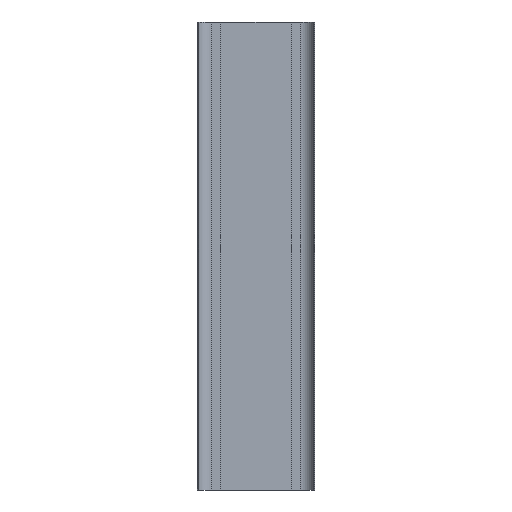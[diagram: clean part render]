
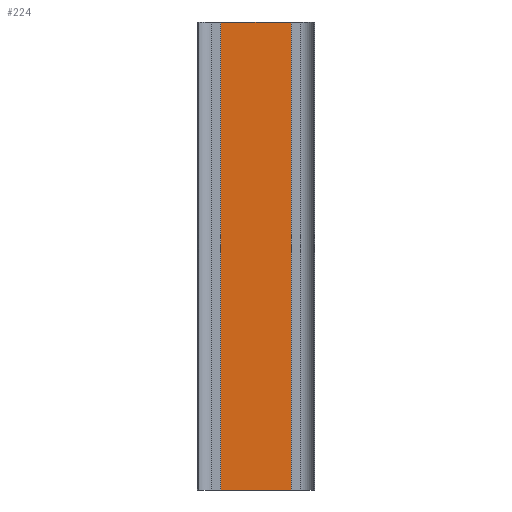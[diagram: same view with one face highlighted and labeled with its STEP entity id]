
A CAD part, front view. The second image highlights one B-rep face of the part: STEP entity #224.
In plain terms, the highlighted planar face has unit normal (0, -1, 0).
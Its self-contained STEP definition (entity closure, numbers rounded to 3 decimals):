
#6 = DIRECTION ( 'NONE',  ( 1., 0., 0. ) ) ;
#21 = EDGE_CURVE ( 'NONE', #859, #1123, #944, .T. ) ;
#31 = LINE ( 'NONE', #124, #590 ) ;
#52 = VERTEX_POINT ( 'NONE', #607 ) ;
#55 = DIRECTION ( 'NONE',  ( 1., 0., 0. ) ) ;
#124 = CARTESIAN_POINT ( 'NONE',  ( -7.5, 0., -100. ) ) ;
#165 = DIRECTION ( 'NONE',  ( 0., 0., 1. ) ) ;
#175 = ORIENTED_EDGE ( 'NONE', *, *, #21, .T. ) ;
#221 = AXIS2_PLACEMENT_3D ( 'NONE', #1074, #738, #385 ) ;
#224 = ADVANCED_FACE ( 'NONE', ( #979 ), #563, .T. ) ;
#253 = CARTESIAN_POINT ( 'NONE',  ( -7.5, 0., -100. ) ) ;
#270 = ORIENTED_EDGE ( 'NONE', *, *, #512, .F. ) ;
#320 = LINE ( 'NONE', #253, #664 ) ;
#370 = VERTEX_POINT ( 'NONE', #502 ) ;
#385 = DIRECTION ( 'NONE',  ( 0., 0., -1. ) ) ;
#419 = EDGE_CURVE ( 'NONE', #370, #859, #320, .T. ) ;
#461 = CARTESIAN_POINT ( 'NONE',  ( -7.5, 0., 0. ) ) ;
#483 = VECTOR ( 'NONE', #6, 1000. ) ;
#502 = CARTESIAN_POINT ( 'NONE',  ( -7.5, 0., -100. ) ) ;
#503 = CARTESIAN_POINT ( 'NONE',  ( 7.5, 0., -100. ) ) ;
#512 = EDGE_CURVE ( 'NONE', #52, #1123, #524, .T. ) ;
#524 = LINE ( 'NONE', #461, #483 ) ;
#531 = ORIENTED_EDGE ( 'NONE', *, *, #419, .T. ) ;
#563 = PLANE ( 'NONE',  #221 ) ;
#590 = VECTOR ( 'NONE', #888, 1000. ) ;
#607 = CARTESIAN_POINT ( 'NONE',  ( -7.5, 0., 0. ) ) ;
#655 = EDGE_CURVE ( 'NONE', #370, #52, #31, .T. ) ;
#664 = VECTOR ( 'NONE', #55, 1000. ) ;
#734 = EDGE_LOOP ( 'NONE', ( #270, #810, #531, #175 ) ) ;
#738 = DIRECTION ( 'NONE',  ( 0., -1., 0. ) ) ;
#774 = CARTESIAN_POINT ( 'NONE',  ( 7.5, 0., -100. ) ) ;
#810 = ORIENTED_EDGE ( 'NONE', *, *, #655, .F. ) ;
#859 = VERTEX_POINT ( 'NONE', #774 ) ;
#888 = DIRECTION ( 'NONE',  ( 0., 0., 1. ) ) ;
#910 = VECTOR ( 'NONE', #165, 1000. ) ;
#944 = LINE ( 'NONE', #503, #910 ) ;
#945 = CARTESIAN_POINT ( 'NONE',  ( 7.5, 0., 0. ) ) ;
#979 = FACE_OUTER_BOUND ( 'NONE', #734, .T. ) ;
#1074 = CARTESIAN_POINT ( 'NONE',  ( -7.5, 0., -100. ) ) ;
#1123 = VERTEX_POINT ( 'NONE', #945 ) ;
